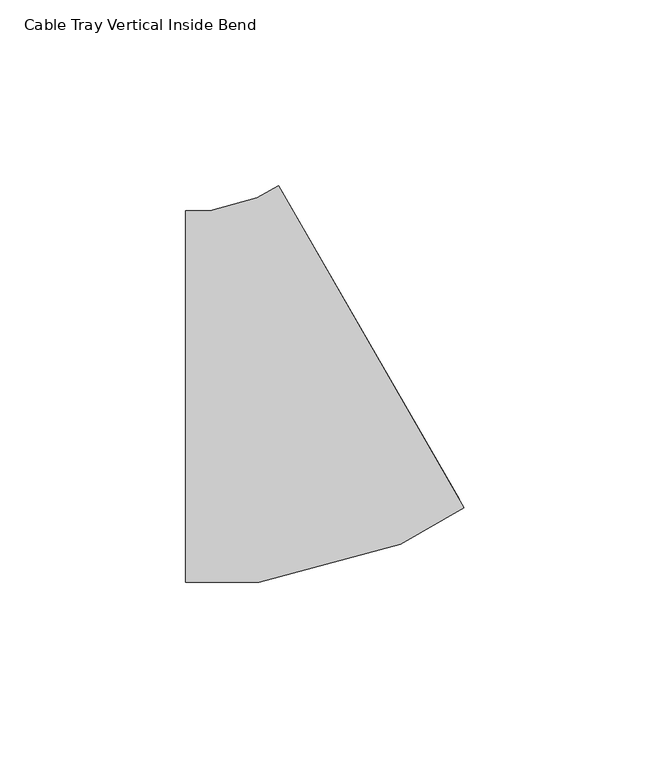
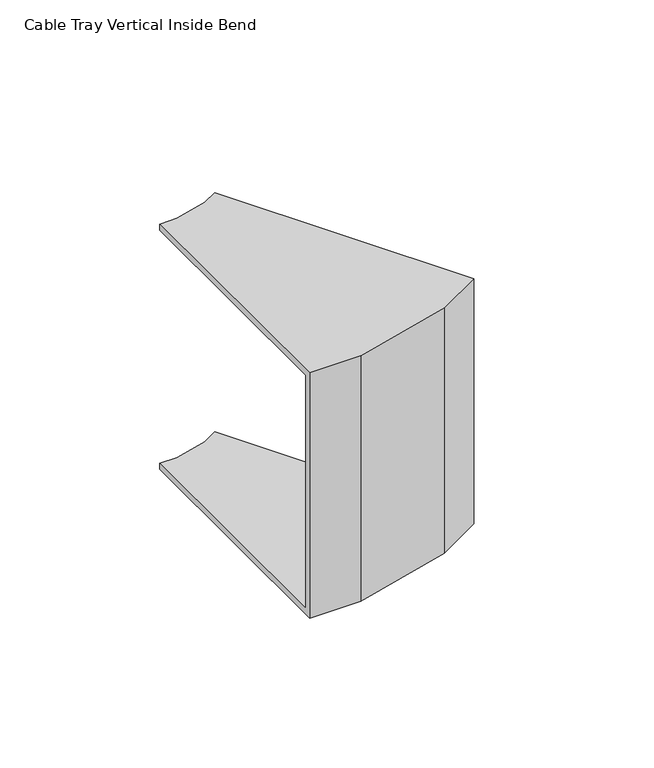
"""IFC4 building model written with IfcOpenShell, lengths in millimetres: cable carrier fitting geometry, Cable Tray Vertical Inside Bend : ELEC_ELV_TKG_N2402."""

from ifc_helpers import new_model, si_unit, origin, place, context, project, spatial, faceted_brep, source, transform, mapped, element, save


def cable_tray_vertical_inside_bend_116ae7c4(model_context):
    return source(origin(), model_context, "Body", "Brep", [
        faceted_brep([(-26.7947506, 50.0, 50.0), (-26.7947506, 50.0, 47.46), (-26.7947506, -47.46, 47.46), (-26.7947506, -47.46, -47.46), (-26.7947506, 50.0, -47.46), (-26.7947506, 50.0, -50.0), (-26.7947506, -50.0, -50.0), (-26.7947506, -50.0, 50.0), (-1.7948869, 56.6986511, 50.0), (48.2048405, -29.9040466, 50.0), (48.2048405, -29.9040466, -50.0), (-1.7948869, 56.6986511, -50.0), (-1.7948869, 56.6986511, -47.46), (46.9348475, -27.7043381, -47.46), (46.9348475, -27.7043381, 47.46), (-1.7948869, 56.6986511, 47.46), (-20.2121657, 50.0, 50.0), (-20.2121657, 50.0, 47.46), (-7.4955829, 53.4073766, 47.46), (30.1223546, -37.4109648, 47.46), (-7.3813913, -47.46, 47.46), (-7.3813913, -47.46, -47.46), (30.1223546, -37.4109648, -47.46), (-7.4955829, 53.4073766, -47.46), (-20.2121657, 50.0, -47.46), (-20.2121657, 50.0, -50.0), (-7.4955829, 53.4073766, -50.0), (31.1027524, -39.7778701, -50.0), (-7.046996, -50.0, -50.0), (-7.046996, -50.0, 50.0), (31.1027524, -39.7778701, 50.0), (-7.4955829, 53.4073766, 50.0)], [[[0, 1, 2, 3, 4, 5, 6, 7]], [[8, 9, 10, 11, 12, 13, 14, 15]], [[1, 0, 16, 17]], [[2, 1, 17, 18, 15, 14, 19, 20]], [[3, 2, 20, 21]], [[4, 3, 21, 22, 13, 12, 23, 24]], [[5, 4, 24, 25]], [[6, 5, 25, 26, 11, 10, 27, 28]], [[7, 6, 28, 29]], [[0, 7, 29, 30, 9, 8, 31, 16]], [[17, 16, 31, 18]], [[21, 20, 19, 22]], [[25, 24, 23, 26]], [[29, 28, 27, 30]], [[18, 31, 8, 15]], [[22, 19, 14, 13]], [[26, 23, 12, 11]], [[30, 27, 10, 9]]]),
    ])


if __name__ == "__main__":
    model = new_model("IFC4")
    model_context = context("Model", 3, world=origin())
    ifc_project = project(units=[si_unit("LENGTHUNIT", "METRE", prefix="MILLI")], contexts=[model_context])
    site = spatial("IfcSite", under=ifc_project)
    building = spatial("IfcBuilding", under=site)
    placement = place(None, origin())
    cable_tray_vertical_inside_bend_shape = cable_tray_vertical_inside_bend_116ae7c4(model_context)
    element("IfcCableCarrierFitting", 1, ObjectType="Cable Tray Vertical Inside Bend : ELEC_ELV_TKG_N2402", at=placement, inside=building, context=model_context, shape_type="MappedRepresentation", body=[
        mapped(cable_tray_vertical_inside_bend_shape, transform((0.0, 0.0, 0.0), x_axis=(1.0, 0.0, 0.0), y_axis=(0.0, 1.0, 0.0), z_axis=(0.0, 0.0, 1.0))),
    ])
    save(model, "model.ifc")
